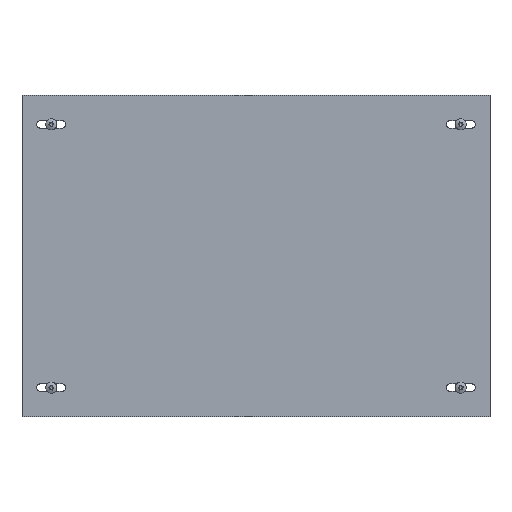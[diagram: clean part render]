
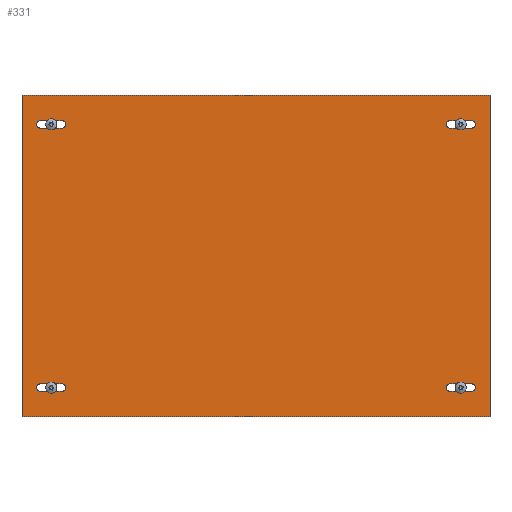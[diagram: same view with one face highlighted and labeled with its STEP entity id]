
A CAD part, top view. The second image highlights one B-rep face of the part: STEP entity #331.
In plain terms, the highlighted planar face has unit normal (0, 0, 1).
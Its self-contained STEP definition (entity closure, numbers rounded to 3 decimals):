
#55 = EDGE_CURVE('',#56,#58,#60,.T.);
#56 = VERTEX_POINT('',#57);
#57 = CARTESIAN_POINT('',(-200.,137.5,0.));
#58 = VERTEX_POINT('',#59);
#59 = CARTESIAN_POINT('',(-200.,-137.5,0.));
#60 = LINE('',#61,#62);
#61 = CARTESIAN_POINT('',(-200.,-137.5,0.));
#62 = VECTOR('',#63,1.);
#63 = DIRECTION('',(-0.,-1.,-0.));
#95 = EDGE_CURVE('',#96,#56,#98,.T.);
#96 = VERTEX_POINT('',#97);
#97 = CARTESIAN_POINT('',(200.,137.5,0.));
#98 = LINE('',#99,#100);
#99 = CARTESIAN_POINT('',(200.,137.5,0.));
#100 = VECTOR('',#101,1.);
#101 = DIRECTION('',(-1.,0.,0.));
#126 = EDGE_CURVE('',#127,#96,#129,.T.);
#127 = VERTEX_POINT('',#128);
#128 = CARTESIAN_POINT('',(200.,-137.5,0.));
#129 = LINE('',#130,#131);
#130 = CARTESIAN_POINT('',(200.,-137.5,0.));
#131 = VECTOR('',#132,1.);
#132 = DIRECTION('',(0.,1.,0.));
#157 = EDGE_CURVE('',#58,#127,#158,.T.);
#158 = LINE('',#159,#160);
#159 = CARTESIAN_POINT('',(200.,-137.5,0.));
#160 = VECTOR('',#161,1.);
#161 = DIRECTION('',(1.,0.,-0.));
#331 = ADVANCED_FACE('',(#332,#368,#404,#440,#476),#482,.T.);
#332 = FACE_BOUND('',#333,.T.);
#333 = EDGE_LOOP('',(#334,#345,#353,#362));
#334 = ORIENTED_EDGE('',*,*,#335,.F.);
#335 = EDGE_CURVE('',#336,#338,#340,.T.);
#336 = VERTEX_POINT('',#337);
#337 = CARTESIAN_POINT('',(-165.75,-115.75,0.));
#338 = VERTEX_POINT('',#339);
#339 = CARTESIAN_POINT('',(-165.75,-109.25,0.));
#340 = CIRCLE('',#341,3.25);
#341 = AXIS2_PLACEMENT_3D('',#342,#343,#344);
#342 = CARTESIAN_POINT('',(-165.75,-112.5,0.));
#343 = DIRECTION('',(0.,0.,1.));
#344 = DIRECTION('',(1.,0.,-0.));
#345 = ORIENTED_EDGE('',*,*,#346,.F.);
#346 = EDGE_CURVE('',#347,#336,#349,.T.);
#347 = VERTEX_POINT('',#348);
#348 = CARTESIAN_POINT('',(-184.25,-115.75,0.));
#349 = LINE('',#350,#351);
#350 = CARTESIAN_POINT('',(-165.75,-115.75,0.));
#351 = VECTOR('',#352,1.);
#352 = DIRECTION('',(1.,-0.,-0.));
#353 = ORIENTED_EDGE('',*,*,#354,.F.);
#354 = EDGE_CURVE('',#355,#347,#357,.T.);
#355 = VERTEX_POINT('',#356);
#356 = CARTESIAN_POINT('',(-184.25,-109.25,0.));
#357 = CIRCLE('',#358,3.25);
#358 = AXIS2_PLACEMENT_3D('',#359,#360,#361);
#359 = CARTESIAN_POINT('',(-184.25,-112.5,0.));
#360 = DIRECTION('',(0.,0.,1.));
#361 = DIRECTION('',(1.,0.,-0.));
#362 = ORIENTED_EDGE('',*,*,#363,.F.);
#363 = EDGE_CURVE('',#338,#355,#364,.T.);
#364 = LINE('',#365,#366);
#365 = CARTESIAN_POINT('',(-165.75,-109.25,0.));
#366 = VECTOR('',#367,1.);
#367 = DIRECTION('',(-1.,0.,0.));
#368 = FACE_BOUND('',#369,.T.);
#369 = EDGE_LOOP('',(#370,#381,#389,#398));
#370 = ORIENTED_EDGE('',*,*,#371,.F.);
#371 = EDGE_CURVE('',#372,#374,#376,.T.);
#372 = VERTEX_POINT('',#373);
#373 = CARTESIAN_POINT('',(-165.75,109.25,0.));
#374 = VERTEX_POINT('',#375);
#375 = CARTESIAN_POINT('',(-165.75,115.75,0.));
#376 = CIRCLE('',#377,3.25);
#377 = AXIS2_PLACEMENT_3D('',#378,#379,#380);
#378 = CARTESIAN_POINT('',(-165.75,112.5,0.));
#379 = DIRECTION('',(0.,0.,1.));
#380 = DIRECTION('',(-1.,0.,0.));
#381 = ORIENTED_EDGE('',*,*,#382,.F.);
#382 = EDGE_CURVE('',#383,#372,#385,.T.);
#383 = VERTEX_POINT('',#384);
#384 = CARTESIAN_POINT('',(-184.25,109.25,0.));
#385 = LINE('',#386,#387);
#386 = CARTESIAN_POINT('',(-165.75,109.25,0.));
#387 = VECTOR('',#388,1.);
#388 = DIRECTION('',(1.,0.,-0.));
#389 = ORIENTED_EDGE('',*,*,#390,.F.);
#390 = EDGE_CURVE('',#391,#383,#393,.T.);
#391 = VERTEX_POINT('',#392);
#392 = CARTESIAN_POINT('',(-184.25,115.75,0.));
#393 = CIRCLE('',#394,3.25);
#394 = AXIS2_PLACEMENT_3D('',#395,#396,#397);
#395 = CARTESIAN_POINT('',(-184.25,112.5,0.));
#396 = DIRECTION('',(0.,0.,1.));
#397 = DIRECTION('',(-1.,0.,0.));
#398 = ORIENTED_EDGE('',*,*,#399,.F.);
#399 = EDGE_CURVE('',#374,#391,#400,.T.);
#400 = LINE('',#401,#402);
#401 = CARTESIAN_POINT('',(-165.75,115.75,0.));
#402 = VECTOR('',#403,1.);
#403 = DIRECTION('',(-1.,0.,0.));
#404 = FACE_BOUND('',#405,.T.);
#405 = EDGE_LOOP('',(#406,#417,#425,#434));
#406 = ORIENTED_EDGE('',*,*,#407,.F.);
#407 = EDGE_CURVE('',#408,#410,#412,.T.);
#408 = VERTEX_POINT('',#409);
#409 = CARTESIAN_POINT('',(165.75,115.75,0.));
#410 = VERTEX_POINT('',#411);
#411 = CARTESIAN_POINT('',(165.75,109.25,0.));
#412 = CIRCLE('',#413,3.25);
#413 = AXIS2_PLACEMENT_3D('',#414,#415,#416);
#414 = CARTESIAN_POINT('',(165.75,112.5,0.));
#415 = DIRECTION('',(0.,0.,1.));
#416 = DIRECTION('',(1.,0.,-0.));
#417 = ORIENTED_EDGE('',*,*,#418,.F.);
#418 = EDGE_CURVE('',#419,#408,#421,.T.);
#419 = VERTEX_POINT('',#420);
#420 = CARTESIAN_POINT('',(184.25,115.75,0.));
#421 = LINE('',#422,#423);
#422 = CARTESIAN_POINT('',(165.75,115.75,0.));
#423 = VECTOR('',#424,1.);
#424 = DIRECTION('',(-1.,-0.,-0.));
#425 = ORIENTED_EDGE('',*,*,#426,.F.);
#426 = EDGE_CURVE('',#427,#419,#429,.T.);
#427 = VERTEX_POINT('',#428);
#428 = CARTESIAN_POINT('',(184.25,109.25,0.));
#429 = CIRCLE('',#430,3.25);
#430 = AXIS2_PLACEMENT_3D('',#431,#432,#433);
#431 = CARTESIAN_POINT('',(184.25,112.5,0.));
#432 = DIRECTION('',(0.,0.,1.));
#433 = DIRECTION('',(1.,0.,-0.));
#434 = ORIENTED_EDGE('',*,*,#435,.F.);
#435 = EDGE_CURVE('',#410,#427,#436,.T.);
#436 = LINE('',#437,#438);
#437 = CARTESIAN_POINT('',(165.75,109.25,0.));
#438 = VECTOR('',#439,1.);
#439 = DIRECTION('',(1.,0.,0.));
#440 = FACE_BOUND('',#441,.T.);
#441 = EDGE_LOOP('',(#442,#453,#461,#470));
#442 = ORIENTED_EDGE('',*,*,#443,.F.);
#443 = EDGE_CURVE('',#444,#446,#448,.T.);
#444 = VERTEX_POINT('',#445);
#445 = CARTESIAN_POINT('',(165.75,-109.25,0.));
#446 = VERTEX_POINT('',#447);
#447 = CARTESIAN_POINT('',(165.75,-115.75,0.));
#448 = CIRCLE('',#449,3.25);
#449 = AXIS2_PLACEMENT_3D('',#450,#451,#452);
#450 = CARTESIAN_POINT('',(165.75,-112.5,0.));
#451 = DIRECTION('',(0.,0.,1.));
#452 = DIRECTION('',(-1.,0.,0.));
#453 = ORIENTED_EDGE('',*,*,#454,.F.);
#454 = EDGE_CURVE('',#455,#444,#457,.T.);
#455 = VERTEX_POINT('',#456);
#456 = CARTESIAN_POINT('',(184.25,-109.25,0.));
#457 = LINE('',#458,#459);
#458 = CARTESIAN_POINT('',(165.75,-109.25,0.));
#459 = VECTOR('',#460,1.);
#460 = DIRECTION('',(-1.,-0.,-0.));
#461 = ORIENTED_EDGE('',*,*,#462,.F.);
#462 = EDGE_CURVE('',#463,#455,#465,.T.);
#463 = VERTEX_POINT('',#464);
#464 = CARTESIAN_POINT('',(184.25,-115.75,0.));
#465 = CIRCLE('',#466,3.25);
#466 = AXIS2_PLACEMENT_3D('',#467,#468,#469);
#467 = CARTESIAN_POINT('',(184.25,-112.5,0.));
#468 = DIRECTION('',(0.,0.,1.));
#469 = DIRECTION('',(-1.,0.,0.));
#470 = ORIENTED_EDGE('',*,*,#471,.F.);
#471 = EDGE_CURVE('',#446,#463,#472,.T.);
#472 = LINE('',#473,#474);
#473 = CARTESIAN_POINT('',(165.75,-115.75,0.));
#474 = VECTOR('',#475,1.);
#475 = DIRECTION('',(1.,0.,0.));
#476 = FACE_BOUND('',#477,.T.);
#477 = EDGE_LOOP('',(#478,#479,#480,#481));
#478 = ORIENTED_EDGE('',*,*,#55,.T.);
#479 = ORIENTED_EDGE('',*,*,#157,.T.);
#480 = ORIENTED_EDGE('',*,*,#126,.T.);
#481 = ORIENTED_EDGE('',*,*,#95,.T.);
#482 = PLANE('',#483);
#483 = AXIS2_PLACEMENT_3D('',#484,#485,#486);
#484 = CARTESIAN_POINT('',(0.,0.,0.));
#485 = DIRECTION('',(0.,-0.,1.));
#486 = DIRECTION('',(1.,0.,0.));
